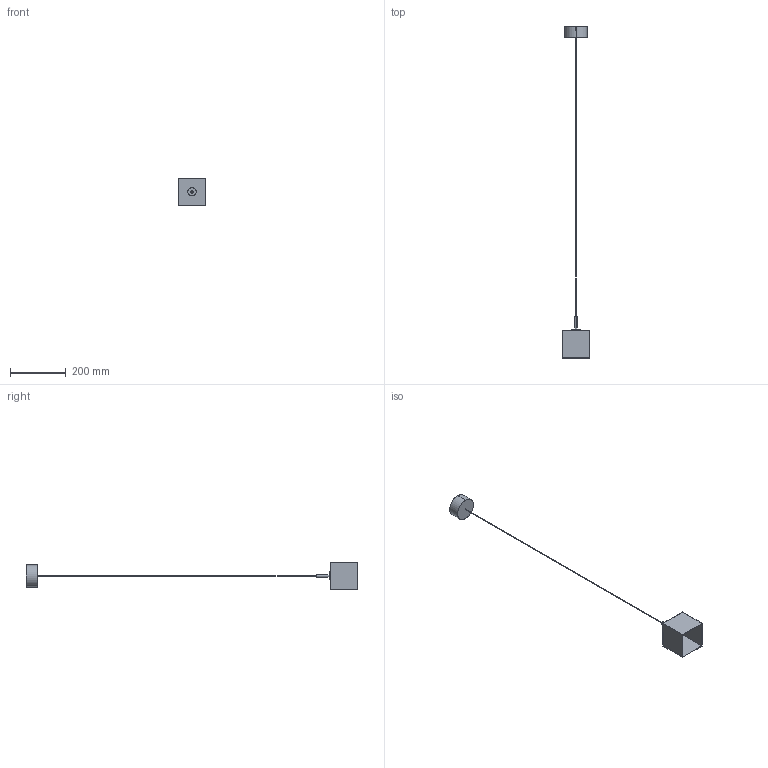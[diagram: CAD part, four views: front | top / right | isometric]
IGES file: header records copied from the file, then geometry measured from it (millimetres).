
Start section: SolidWorks IGES file using analytic representation for surfaces
Global section: file name: C:\Users\Agustin\Desktop\ARNOLD\SEPT 2025\2D-3D DEFINITIVO ONEDRIVE\2D-3D CUBIC_C1344_S\CUBIC_C1344.IGS; native system: SolidWorks 2018; preprocessor: SolidWorks 2018; author: Agustin; date: 250904.175539; units: millimetre
Bounding box: 100 x 1190 x 100 mm (x, y, z)
Surface area: 130287.3 mm2 (no closed solid volume)
Topology: 0 solids, 0 shells, 29 faces, 536 edges, 536 vertices
Faces by surface type: bspline 19, revolution 10
